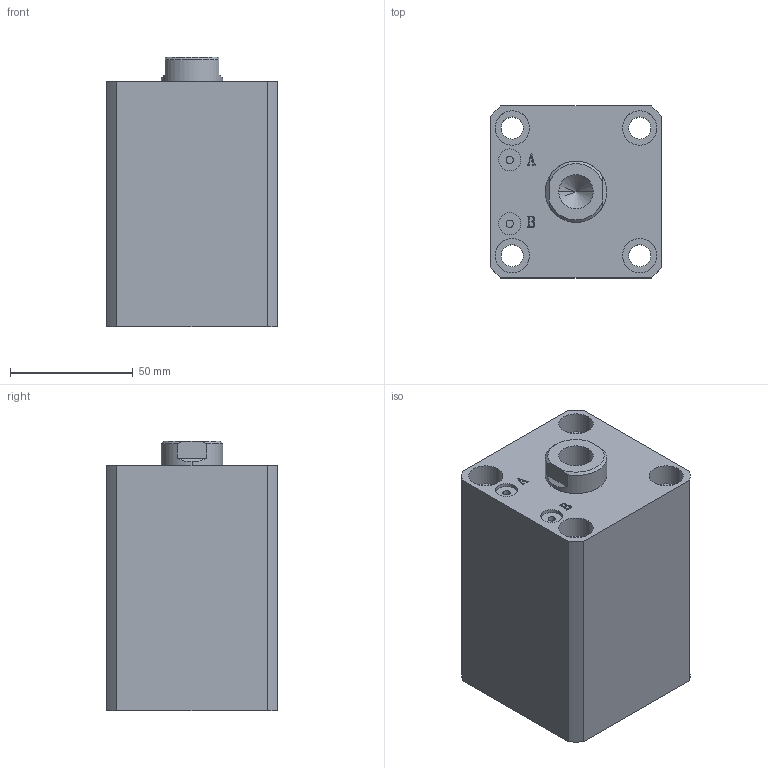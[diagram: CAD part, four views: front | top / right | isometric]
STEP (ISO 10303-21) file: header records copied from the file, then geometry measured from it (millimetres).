
FILE_DESCRIPTION (( 'STEP AP203' ), '1' );
FILE_NAME ('HTB-SDMA40-45N.STEP', '2019-10-07T11:53:24', ( '微软用户' ), ( '微软中国' ), 'SwSTEP 2.0', 'SolidWorks 2012', '' );
FILE_SCHEMA (( 'CONFIG_CONTROL_DESIGN' ));
Length unit declared in the file: millimetre
Products named in the file (3): HTB-SDMA40-45N; HTB-SDMA40-45N活塞杆; HTB-SDMA40-45掛极
Assembly tree (2 placements, depth 2):
  HTB-SDMA40-45N
    HTB-SDMA40-45掛极
    HTB-SDMA40-45N活塞杆
Bounding box: 70 x 70 x 110 mm (x, y, z)
Volume: 420398.9 mm3; surface area: 72785.8 mm2
Topology: 2 solids, 2 shells, 137 faces, 331 edges, 217 vertices
Faces by surface type: plane 65, cylinder 46, bspline 16, torus 6, cone 4
Entity records: 5074 total; most frequent: CARTESIAN_POINT 1580, ORIENTED_EDGE 658, DIRECTION 647, EDGE_CURVE 329, AXIS2_PLACEMENT_3D 232, VERTEX_POINT 217, VECTOR 183, LINE 183
